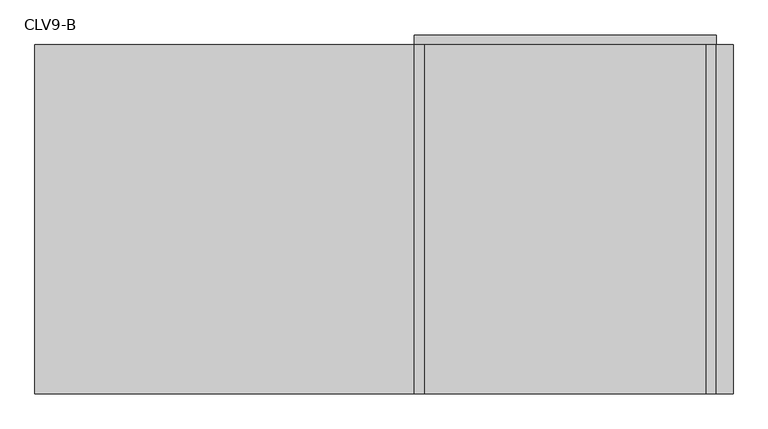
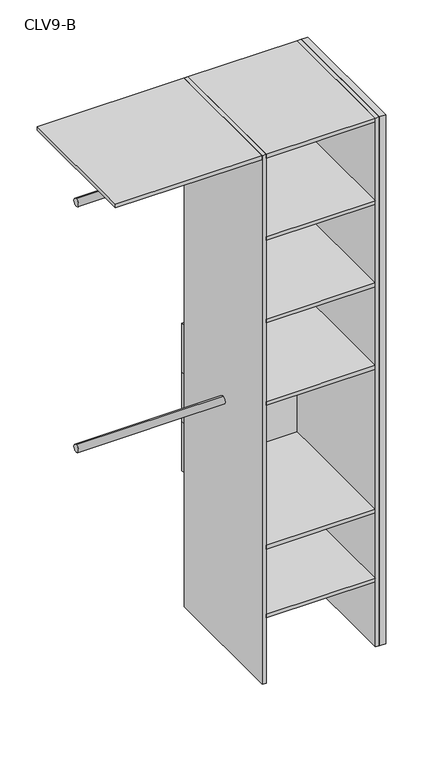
"""IFC4 building model written with IfcOpenShell, lengths in millimetres: furniture geometry, Closet 1estantes-1tubos_lateral estante : CLV9-B."""

from ifc_helpers import new_model, si_unit, point, frame, frame_2d, origin, origin_with_axes, place, context, project, spatial, polyline, circle_curve, trimmed, segment, composite_curve, outline, extrude, source, transform, mapped, element, save


def clv9_b_b5c5b865(model_context):
    return source(origin(), model_context, "Body", "SweptSolid", [
        extrude(outline(polyline([(250.0, -80.0), (250.0, -600.0), (225.0, -600.0), (225.0, -80.0), (250.0, -80.0)])), origin_with_axes(), (0.0, 0.0, 1.0), 2150.0),
        extrude(outline(polyline([(225.0, -80.0), (225.0, -600.0), (210.0, -600.0), (210.0, -80.0), (225.0, -80.0)])), origin_with_axes(), (0.0, 0.0, 1.0), 2150.0),
        extrude(outline(polyline([(-210.0, -80.0), (-210.0, -600.0), (-225.0, -600.0), (-225.0, -80.0), (-210.0, -80.0)])), origin_with_axes(), (0.0, 0.0, 1.0), 2150.0),
        extrude(outline(polyline([(225.0, -80.0), (-225.0, -80.0), (-225.0, -65.0), (225.0, -65.0), (225.0, -80.0)])), frame((0.0, 0.0, 945.0), z_axis=(0.0, 0.0, 1.0), x_axis=(1.0, 0.0, 0.0)), (0.0, 0.0, 1.0), 200.0),
        extrude(outline(polyline([(225.0, -80.0), (-225.0, -80.0), (-225.0, -65.0), (225.0, -65.0), (225.0, -80.0)])), frame((0.0, 0.0, 745.0), z_axis=(0.0, 0.0, 1.0), x_axis=(1.0, 0.0, 0.0)), (0.0, 0.0, 1.0), 200.0),
        extrude(outline(polyline([(225.0, -80.0), (-225.0, -80.0), (-225.0, -65.0), (225.0, -65.0), (225.0, -80.0)])), frame((0.0, 0.0, 545.0), z_axis=(0.0, 0.0, 1.0), x_axis=(1.0, 0.0, 0.0)), (0.0, 0.0, 1.0), 200.0),
        extrude(outline(polyline([(210.0, -80.0), (210.0, -600.0), (-210.0, -600.0), (-210.0, -80.0), (210.0, -80.0)])), frame((0.0, 0.0, 1130.0), z_axis=(0.0, 0.0, 1.0), x_axis=(1.0, 0.0, 0.0)), (0.0, 0.0, 1.0), 15.0),
        extrude(outline(composite_curve([segment(trimmed(circle_curve(frame_2d((-340.0, 1000.0)), 15.0), [point((-340.0, 1015.0))], [point((-340.0, 985.0))], False, "CARTESIAN"), True, "CONTINUOUS"), segment(trimmed(circle_curve(frame_2d((-340.0, 1000.0)), 15.0), [point((-340.0, 985.0))], [point((-340.0, 1015.0))], False, "CARTESIAN"), True, "CONTINUOUS")], self_intersect=False)), frame((-790.0, 0.0, 0.0), z_axis=(1.0, 0.0, 0.0), x_axis=(0.0, 1.0, 0.0)), (0.0, 0.0, 1.0), 565.0),
        extrude(outline(composite_curve([segment(trimmed(circle_curve(frame_2d((-340.0, 2000.0)), 15.0), [point((-340.0, 2015.0))], [point((-340.0, 1985.0))], False, "CARTESIAN"), True, "CONTINUOUS"), segment(trimmed(circle_curve(frame_2d((-340.0, 2000.0)), 15.0), [point((-340.0, 1985.0))], [point((-340.0, 2015.0))], False, "CARTESIAN"), True, "CONTINUOUS")], self_intersect=False)), frame((-790.0, 0.0, 0.0), z_axis=(1.0, 0.0, 0.0), x_axis=(0.0, 1.0, 0.0)), (0.0, 0.0, 1.0), 565.0),
        extrude(outline(polyline([(210.0, -80.0), (210.0, -600.0), (-210.0, -600.0), (-210.0, -80.0), (210.0, -80.0)])), frame((0.0, 0.0, 265.0), z_axis=(0.0, 0.0, 1.0), x_axis=(1.0, 0.0, 0.0)), (0.0, 0.0, 1.0), 15.0),
        extrude(outline(polyline([(210.0, -80.0), (210.0, -600.0), (-210.0, -600.0), (-210.0, -80.0), (210.0, -80.0)])), frame((0.0, 0.0, 545.0), z_axis=(0.0, 0.0, 1.0), x_axis=(1.0, 0.0, 0.0)), (0.0, 0.0, 1.0), 15.0),
        extrude(outline(polyline([(210.0, -80.0), (210.0, -600.0), (-210.0, -600.0), (-210.0, -80.0), (210.0, -80.0)])), frame((0.0, 0.0, 1465.0), z_axis=(0.0, 0.0, 1.0), x_axis=(1.0, 0.0, 0.0)), (0.0, 0.0, 1.0), 15.0),
        extrude(outline(polyline([(210.0, -80.0), (210.0, -600.0), (-210.0, -600.0), (-210.0, -80.0), (210.0, -80.0)])), frame((0.0, 0.0, 1800.0), z_axis=(0.0, 0.0, 1.0), x_axis=(1.0, 0.0, 0.0)), (0.0, 0.0, 1.0), 15.0),
        extrude(outline(polyline([(-210.0, -80.0), (-210.0, -600.0), (-790.0, -600.0), (-790.0, -80.0), (-210.0, -80.0)])), frame((0.0, 0.0, 2135.0), z_axis=(0.0, 0.0, 1.0), x_axis=(1.0, 0.0, 0.0)), (0.0, 0.0, 1.0), 15.0),
        extrude(outline(polyline([(210.0, -80.0), (210.0, -600.0), (-210.0, -600.0), (-210.0, -80.0), (210.0, -80.0)])), frame((0.0, 0.0, 2135.0), z_axis=(0.0, 0.0, 1.0), x_axis=(1.0, 0.0, 0.0)), (0.0, 0.0, 1.0), 15.0),
    ])


if __name__ == "__main__":
    model = new_model("IFC4")
    model_context = context("Model", 3, world=origin())
    ifc_project = project(units=[si_unit("LENGTHUNIT", "METRE", prefix="MILLI")], contexts=[model_context])
    site = spatial("IfcSite", under=ifc_project)
    building = spatial("IfcBuilding", under=site)
    placement = place(None, origin())
    clv9_b_shape = clv9_b_b5c5b865(model_context)
    element("IfcFurniture", 1, ObjectType="Closet 1estantes-1tubos_lateral estante : CLV9-B", at=placement, inside=building, context=model_context, shape_type="MappedRepresentation", body=[
        mapped(clv9_b_shape, transform((0.0, 0.0, 0.0), x_axis=(1.0, 0.0, 0.0), y_axis=(0.0, 1.0, 0.0), z_axis=(0.0, 0.0, 1.0))),
    ])
    save(model, "model.ifc")
